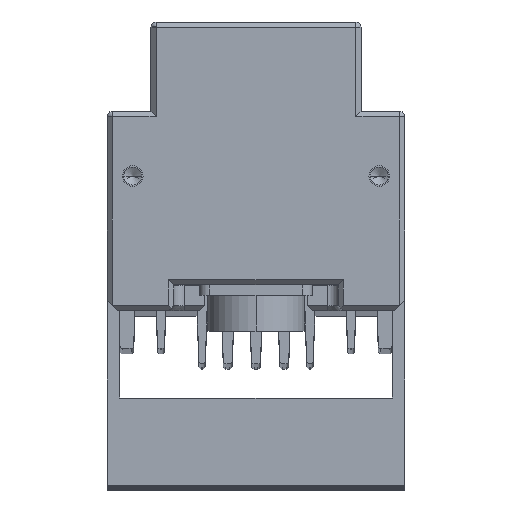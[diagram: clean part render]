
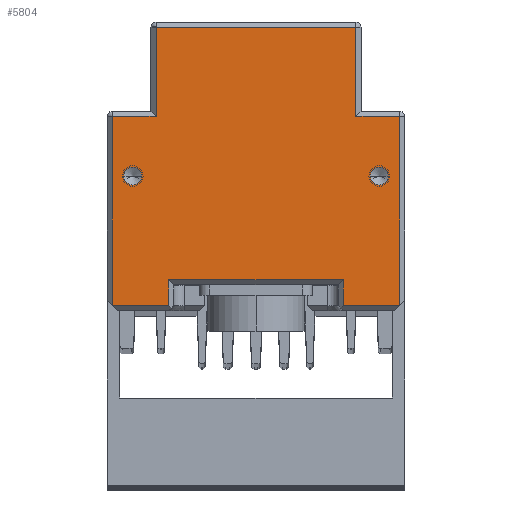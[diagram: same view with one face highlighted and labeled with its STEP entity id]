
A CAD part, top view. The second image highlights one B-rep face of the part: STEP entity #5804.
In plain terms, the highlighted planar face has unit normal (0, 0, 1).
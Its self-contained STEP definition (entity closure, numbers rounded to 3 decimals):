
#757=CARTESIAN_POINT('',(-24.,15.794,335.));
#758=DIRECTION('',(0.,0.,1.));
#759=DIRECTION('',(-1.,0.,0.));
#760=AXIS2_PLACEMENT_3D('',#757,#758,#759);
#762=CARTESIAN_POINT('',(-24.,15.794,335.));
#763=DIRECTION('',(0.,0.,1.));
#764=DIRECTION('',(1.,0.,0.));
#765=AXIS2_PLACEMENT_3D('',#762,#763,#764);
#767=CARTESIAN_POINT('',(24.,15.794,335.));
#768=DIRECTION('',(0.,0.,1.));
#769=DIRECTION('',(-1.,0.,0.));
#770=AXIS2_PLACEMENT_3D('',#767,#768,#769);
#772=CARTESIAN_POINT('',(24.,15.794,335.));
#773=DIRECTION('',(0.,0.,1.));
#774=DIRECTION('',(1.,0.,0.));
#775=AXIS2_PLACEMENT_3D('',#772,#773,#774);
#777=DIRECTION('',(1.,0.,0.));
#778=VECTOR('',#777,11.);
#779=CARTESIAN_POINT('',(-28.,-9.406,335.));
#780=LINE('',#779,#778);
#781=DIRECTION('',(0.,-1.,0.));
#782=VECTOR('',#781,36.8);
#783=CARTESIAN_POINT('',(-28.,27.394,335.));
#784=LINE('',#783,#782);
#785=DIRECTION('',(-1.,0.,0.));
#786=VECTOR('',#785,8.55);
#787=CARTESIAN_POINT('',(-19.45,27.394,335.));
#788=LINE('',#787,#786);
#789=DIRECTION('',(0.,-1.,0.));
#790=VECTOR('',#789,17.4);
#791=CARTESIAN_POINT('',(-19.45,44.794,335.));
#792=LINE('',#791,#790);
#793=DIRECTION('',(-1.,0.,0.));
#794=VECTOR('',#793,38.899);
#795=CARTESIAN_POINT('',(19.45,44.794,335.));
#796=LINE('',#795,#794);
#797=DIRECTION('',(0.,1.,0.));
#798=VECTOR('',#797,17.4);
#799=CARTESIAN_POINT('',(19.45,27.394,335.));
#800=LINE('',#799,#798);
#801=DIRECTION('',(-1.,0.,0.));
#802=VECTOR('',#801,8.55);
#803=CARTESIAN_POINT('',(28.,27.394,335.));
#804=LINE('',#803,#802);
#805=DIRECTION('',(0.,1.,0.));
#806=VECTOR('',#805,36.8);
#807=CARTESIAN_POINT('',(28.,-9.406,335.));
#808=LINE('',#807,#806);
#809=DIRECTION('',(1.,0.,0.));
#810=VECTOR('',#809,11.);
#811=CARTESIAN_POINT('',(17.,-9.406,335.));
#812=LINE('',#811,#810);
#813=DIRECTION('',(0.,-1.,0.));
#814=VECTOR('',#813,5.);
#815=CARTESIAN_POINT('',(17.,-4.406,335.));
#816=LINE('',#815,#814);
#817=DIRECTION('',(-1.,0.,0.));
#818=VECTOR('',#817,34.);
#819=CARTESIAN_POINT('',(17.,-4.406,335.));
#820=LINE('',#819,#818);
#821=DIRECTION('',(0.,1.,0.));
#822=VECTOR('',#821,5.);
#823=CARTESIAN_POINT('',(-17.,-9.406,335.));
#824=LINE('',#823,#822);
#4449=CARTESIAN_POINT('',(-28.,-9.406,335.));
#4450=CARTESIAN_POINT('',(-17.,-9.406,335.));
#4451=VERTEX_POINT('',#4449);
#4452=VERTEX_POINT('',#4450);
#4461=CARTESIAN_POINT('',(-28.,27.394,335.));
#4462=VERTEX_POINT('',#4461);
#4465=CARTESIAN_POINT('',(-19.45,27.394,335.));
#4466=VERTEX_POINT('',#4465);
#4469=CARTESIAN_POINT('',(19.45,27.394,335.));
#4470=CARTESIAN_POINT('',(19.45,44.794,335.));
#4471=VERTEX_POINT('',#4469);
#4472=VERTEX_POINT('',#4470);
#4479=CARTESIAN_POINT('',(-19.45,44.794,335.));
#4480=VERTEX_POINT('',#4479);
#4485=CARTESIAN_POINT('',(28.,-9.406,335.));
#4486=CARTESIAN_POINT('',(28.,27.394,335.));
#4487=VERTEX_POINT('',#4485);
#4488=VERTEX_POINT('',#4486);
#4499=CARTESIAN_POINT('',(17.,-9.406,335.));
#4500=VERTEX_POINT('',#4499);
#4521=CARTESIAN_POINT('',(17.,-4.406,335.));
#4522=VERTEX_POINT('',#4521);
#4523=CARTESIAN_POINT('',(-17.,-4.406,335.));
#4524=VERTEX_POINT('',#4523);
#4555=CARTESIAN_POINT('',(-25.75,15.794,335.));
#4556=CARTESIAN_POINT('',(-22.25,15.794,335.));
#4557=VERTEX_POINT('',#4555);
#4558=VERTEX_POINT('',#4556);
#4565=CARTESIAN_POINT('',(22.25,15.794,335.));
#4566=CARTESIAN_POINT('',(25.75,15.794,335.));
#4567=VERTEX_POINT('',#4565);
#4568=VERTEX_POINT('',#4566);
#5762=CARTESIAN_POINT('',(0.,0.,335.));
#5763=DIRECTION('',(0.,0.,1.));
#5764=DIRECTION('',(1.,0.,0.));
#5765=AXIS2_PLACEMENT_3D('',#5762,#5763,#5764);
#5766=PLANE('',#5765);
#5768=ORIENTED_EDGE('',*,*,#5767,.F.);
#5770=ORIENTED_EDGE('',*,*,#5769,.F.);
#5772=ORIENTED_EDGE('',*,*,#5771,.F.);
#5774=ORIENTED_EDGE('',*,*,#5773,.F.);
#5776=ORIENTED_EDGE('',*,*,#5775,.F.);
#5778=ORIENTED_EDGE('',*,*,#5777,.F.);
#5780=ORIENTED_EDGE('',*,*,#5779,.F.);
#5782=ORIENTED_EDGE('',*,*,#5781,.F.);
#5784=ORIENTED_EDGE('',*,*,#5783,.F.);
#5786=ORIENTED_EDGE('',*,*,#5785,.F.);
#5788=ORIENTED_EDGE('',*,*,#5787,.T.);
#5789=ORIENTED_EDGE('',*,*,#5751,.F.);
#5790=EDGE_LOOP('',(#5768,#5770,#5772,#5774,#5776,#5778,#5780,#5782,#5784,#5786,
#5788,#5789));
#5791=FACE_OUTER_BOUND('',#5790,.F.);
#5793=ORIENTED_EDGE('',*,*,#5792,.T.);
#5795=ORIENTED_EDGE('',*,*,#5794,.T.);
#5796=EDGE_LOOP('',(#5793,#5795));
#5797=FACE_BOUND('',#5796,.F.);
#5799=ORIENTED_EDGE('',*,*,#5798,.T.);
#5801=ORIENTED_EDGE('',*,*,#5800,.T.);
#5802=EDGE_LOOP('',(#5799,#5801));
#5803=FACE_BOUND('',#5802,.F.);
#761=CIRCLE('',#760,1.75);
#766=CIRCLE('',#765,1.75);
#771=CIRCLE('',#770,1.75);
#776=CIRCLE('',#775,1.75);
#5751=EDGE_CURVE('',#4452,#4524,#824,.T.);
#5767=EDGE_CURVE('',#4451,#4452,#780,.T.);
#5769=EDGE_CURVE('',#4462,#4451,#784,.T.);
#5771=EDGE_CURVE('',#4466,#4462,#788,.T.);
#5773=EDGE_CURVE('',#4480,#4466,#792,.T.);
#5775=EDGE_CURVE('',#4472,#4480,#796,.T.);
#5777=EDGE_CURVE('',#4471,#4472,#800,.T.);
#5779=EDGE_CURVE('',#4488,#4471,#804,.T.);
#5781=EDGE_CURVE('',#4487,#4488,#808,.T.);
#5783=EDGE_CURVE('',#4500,#4487,#812,.T.);
#5785=EDGE_CURVE('',#4522,#4500,#816,.T.);
#5787=EDGE_CURVE('',#4522,#4524,#820,.T.);
#5792=EDGE_CURVE('',#4567,#4568,#771,.T.);
#5794=EDGE_CURVE('',#4568,#4567,#776,.T.);
#5798=EDGE_CURVE('',#4557,#4558,#761,.T.);
#5800=EDGE_CURVE('',#4558,#4557,#766,.T.);
#5804=ADVANCED_FACE('',(#5791,#5797,#5803),#5766,.T.);
